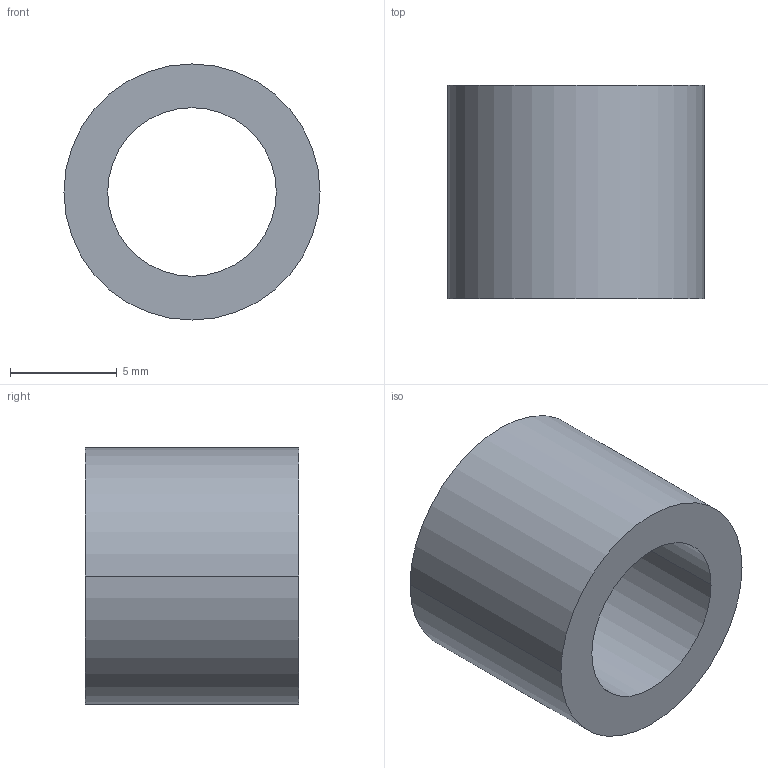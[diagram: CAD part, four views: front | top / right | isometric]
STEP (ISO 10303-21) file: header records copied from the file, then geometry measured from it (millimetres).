
FILE_DESCRIPTION (( 'STEP AP203' ), '1' );
FILE_NAME ('30800.WPP12D7.9.step', '2019-01-23T22:28:53', ( '' ), ( '' ), 'SwSTEP 2.0', 'SolidWorks 2017', '' );
FILE_SCHEMA (( 'CONFIG_CONTROL_DESIGN' ));
Length unit declared in the file: millimetre
Products named in the file (1): 30800.WPP12D7.9
Bounding box: 12 x 10 x 12 mm (x, y, z)
Volume: 627.8 mm3; surface area: 738.4 mm2
Topology: 1 solids, 1 shells, 8 faces, 16 edges, 10 vertices
Faces by surface type: cylinder 4, torus 2, plane 2
Entity records: 297 total; most frequent: DIRECTION 46, CARTESIAN_POINT 35, ORIENTED_EDGE 32, AXIS2_PLACEMENT_3D 21, EDGE_CURVE 16, CIRCLE 12, EDGE_LOOP 10, VERTEX_POINT 10
